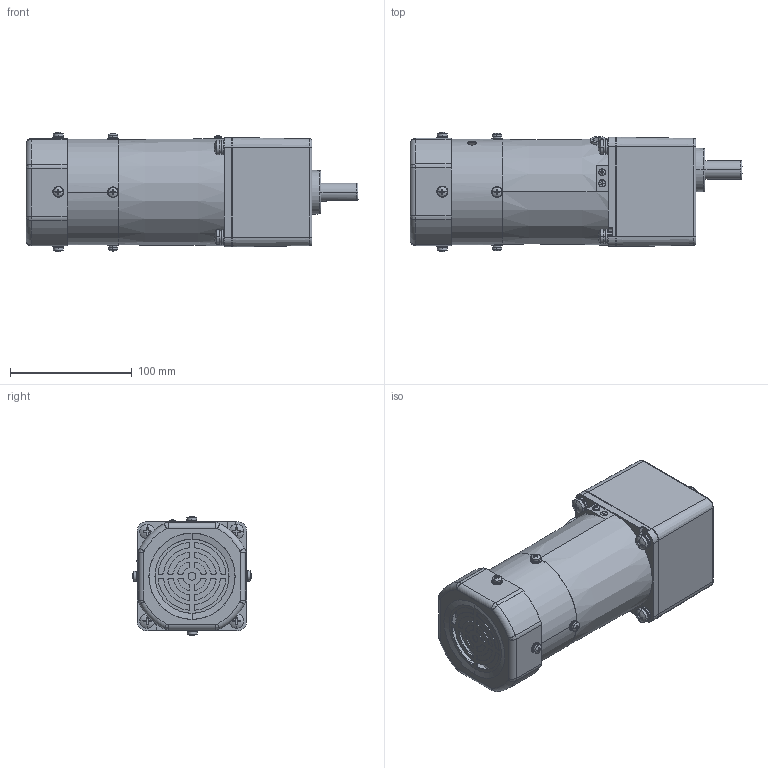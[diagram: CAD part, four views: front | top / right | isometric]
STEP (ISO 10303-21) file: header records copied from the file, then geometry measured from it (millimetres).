
FILE_DESCRIPTION (( 'STEP AP203' ), '1' );
FILE_NAME ('5RK60GU-CMF(5GU3KB-200KB).STEP', '2020-04-09T08:53:43', ( 'Windows 蚚誧' ), ( '' ), 'SwSTEP 2.0', 'SolidWorks 2019', '' );
FILE_SCHEMA (( 'CONFIG_CONTROL_DESIGN' ));
Length unit declared in the file: millimetre
Products named in the file (7): 5RK60GU-CMF(5GU3KB-200KB); 5RK40A-CM.stp; M3; 5RK40A-CM; 90FZ; 5RK60A-CMF; 5GU3KB-200KB
Assembly tree (6 placements, depth 4):
  5RK60GU-CMF(5GU3KB-200KB)
    5RK60A-CMF
      5RK40A-CM
        5RK40A-CM.stp
        M3
      90FZ
    5GU3KB-200KB
Bounding box: 273 x 98.11 x 98.11 mm (x, y, z)
Volume: 1180293.2 mm3; surface area: 179617.6 mm2
Topology: 45 solids, 45 shells, 1240 faces, 3151 edges, 2025 vertices
Faces by surface type: cylinder 529, plane 458, cone 128, torus 59, sphere 46, bspline 20
Entity records: 40700 total; most frequent: CARTESIAN_POINT 8983, DIRECTION 7042, ORIENTED_EDGE 6250, EDGE_CURVE 3125, AXIS2_PLACEMENT_3D 2863, VERTEX_POINT 2025, CIRCLE 1632, EDGE_LOOP 1374
